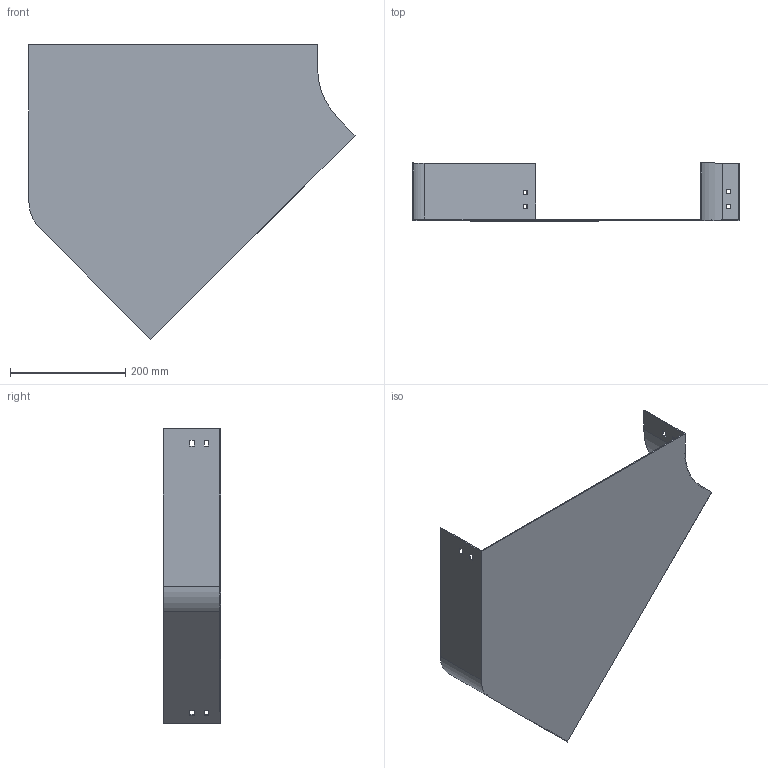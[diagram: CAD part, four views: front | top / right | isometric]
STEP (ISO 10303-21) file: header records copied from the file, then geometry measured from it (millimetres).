
FILE_DESCRIPTION (( 'STEP AP214' ), '1' );
FILE_NAME ('P4_501.step', '2025-07-16T09:19:42', ( '' ), ( '' ), 'SwSTEP 2.0', 'SolidWorks 2023', '' );
FILE_SCHEMA (( 'AUTOMOTIVE_DESIGN' ));
Length unit declared in the file: millimetre
Products named in the file (1): P4_501
Bounding box: 564.9 x 100 x 510.23 mm (x, y, z)
Volume: 406781.4 mm3; surface area: 546034 mm2
Topology: 1 solids, 1 shells, 50 faces, 144 edges, 96 vertices
Faces by surface type: plane 46, cylinder 4
Entity records: 1671 total; most frequent: CARTESIAN_POINT 291, ORIENTED_EDGE 288, DIRECTION 254, EDGE_CURVE 144, LINE 136, VECTOR 136, VERTEX_POINT 96, EDGE_LOOP 66
